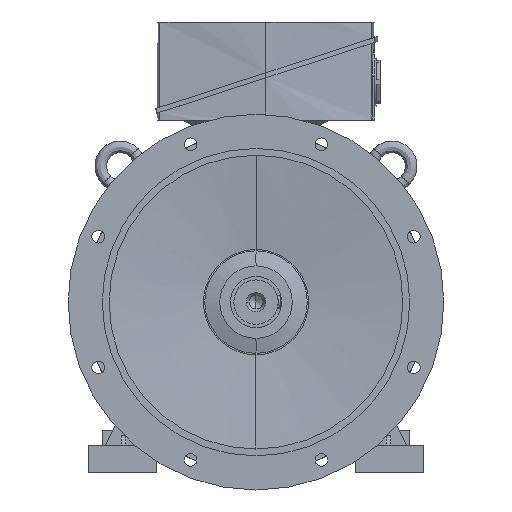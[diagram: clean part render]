
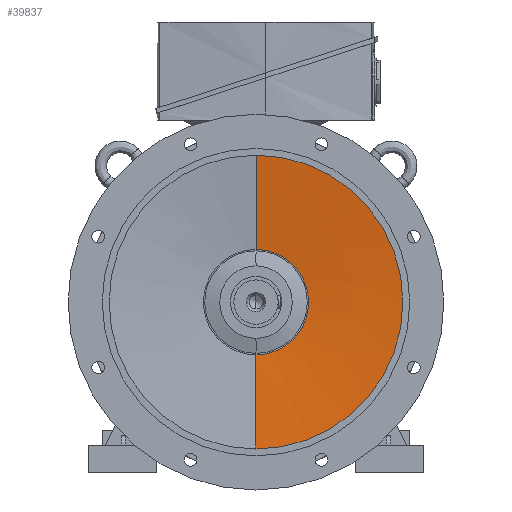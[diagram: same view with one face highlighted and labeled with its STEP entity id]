
A CAD part, left-side view. The second image highlights one B-rep face of the part: STEP entity #39837.
In plain terms, the highlighted conical face has half-angle 83.797 degrees and reference radius 215 mm.
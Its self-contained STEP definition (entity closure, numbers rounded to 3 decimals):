
#434 = VERTEX_POINT ( 'NONE', #46400 ) ;
#5474 = CARTESIAN_POINT ( 'NONE',  ( -95., 0., 215. ) ) ;
#6614 = ORIENTED_EDGE ( 'NONE', *, *, #23774, .T. ) ;
#9393 = AXIS2_PLACEMENT_3D ( 'NONE', #35138, #34959, #43553 ) ;
#10121 = CARTESIAN_POINT ( 'NONE',  ( -80., 0., -77. ) ) ;
#10598 = CARTESIAN_POINT ( 'NONE',  ( -95., 0., -215. ) ) ;
#10611 = CIRCLE ( 'NONE', #50575, 77. ) ;
#16133 = EDGE_LOOP ( 'NONE', ( #35148, #6614, #49406, #51563 ) ) ;
#17097 = DIRECTION ( 'NONE',  ( -1., 0., 0. ) ) ;
#19178 = VECTOR ( 'NONE', #54401, 1000. ) ;
#23774 = EDGE_CURVE ( 'NONE', #30895, #434, #30818, .T. ) ;
#26785 = VERTEX_POINT ( 'NONE', #37996 ) ;
#30818 = LINE ( 'NONE', #10598, #19178 ) ;
#30895 = VERTEX_POINT ( 'NONE', #10121 ) ;
#31474 = AXIS2_PLACEMENT_3D ( 'NONE', #38840, #17097, #47105 ) ;
#32089 = VERTEX_POINT ( 'NONE', #43930 ) ;
#32821 = LINE ( 'NONE', #5474, #53316 ) ;
#34274 = EDGE_CURVE ( 'NONE', #30895, #26785, #10611, .T. ) ;
#34959 = DIRECTION ( 'NONE',  ( -1., 0., 0. ) ) ;
#35138 = CARTESIAN_POINT ( 'NONE',  ( -95., 0., 0. ) ) ;
#35148 = ORIENTED_EDGE ( 'NONE', *, *, #34274, .F. ) ;
#37996 = CARTESIAN_POINT ( 'NONE',  ( -80., 0., 77. ) ) ;
#38840 = CARTESIAN_POINT ( 'NONE',  ( -95., 0., 0. ) ) ;
#38915 = CARTESIAN_POINT ( 'NONE',  ( -80., 0., 0. ) ) ;
#39837 = ADVANCED_FACE ( 'NONE', ( #50051 ), #54829, .F. ) ;
#43553 = DIRECTION ( 'NONE',  ( 0., 0., 1. ) ) ;
#43930 = CARTESIAN_POINT ( 'NONE',  ( -95., 0., 215. ) ) ;
#45149 = EDGE_CURVE ( 'NONE', #434, #32089, #52274, .T. ) ;
#46400 = CARTESIAN_POINT ( 'NONE',  ( -95., 0., -215. ) ) ;
#46658 = EDGE_CURVE ( 'NONE', #26785, #32089, #32821, .T. ) ;
#47105 = DIRECTION ( 'NONE',  ( 0., 0., 1. ) ) ;
#49406 = ORIENTED_EDGE ( 'NONE', *, *, #45149, .T. ) ;
#49450 = DIRECTION ( 'NONE',  ( -0.108, 0., 0.994 ) ) ;
#50051 = FACE_OUTER_BOUND ( 'NONE', #16133, .T. ) ;
#50575 = AXIS2_PLACEMENT_3D ( 'NONE', #38915, #55961, #52144 ) ;
#51563 = ORIENTED_EDGE ( 'NONE', *, *, #46658, .F. ) ;
#52144 = DIRECTION ( 'NONE',  ( 0., 0., 1. ) ) ;
#52274 = CIRCLE ( 'NONE', #9393, 215. ) ;
#53316 = VECTOR ( 'NONE', #49450, 1000. ) ;
#54401 = DIRECTION ( 'NONE',  ( -0.108, 0., -0.994 ) ) ;
#54829 = CONICAL_SURFACE ( 'NONE', #31474, 215., 1.463 ) ;
#55961 = DIRECTION ( 'NONE',  ( -1., 0., 0. ) ) ;
